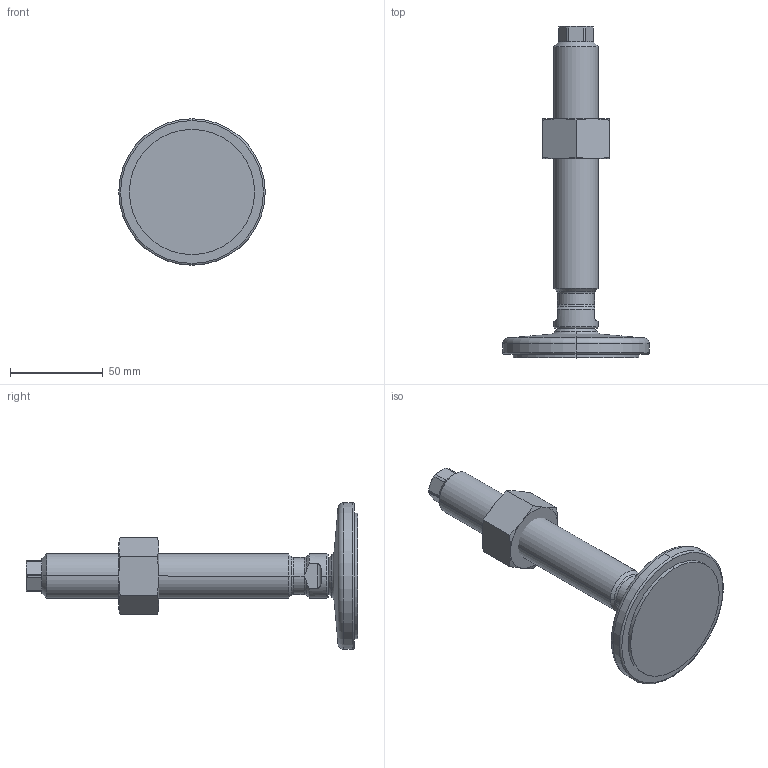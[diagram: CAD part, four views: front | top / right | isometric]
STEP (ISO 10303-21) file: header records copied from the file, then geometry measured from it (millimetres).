
FILE_DESCRIPTION (( 'STEP AP214' ), '1' );
FILE_NAME ('21-80-M24-150-D1-VK.step', '2020-10-02T17:36:36', ( '' ), ( '' ), 'SwSTEP 2.0', 'SolidWorks 2019', '' );
FILE_SCHEMA (( 'AUTOMOTIVE_DESIGN' ));
Length unit declared in the file: millimetre
Products named in the file (4): 21-80-M24-150-D1-VK; WB4032^WB21_V_M24; WB21_Spindel_V^WB21_V_M24-150; WB21_Fußteller 21^WB21_V_D1-080-R14-B9 (M24)
Assembly tree (3 placements, depth 2):
  21-80-M24-150-D1-VK
    WB21_Fußteller 21^WB21_V_D1-080-R14-B9 (M24)
    WB21_Spindel_V^WB21_V_M24-150
    WB4032^WB21_V_M24
Bounding box: 79 x 178.9 x 79 mm (x, y, z)
Volume: 141898.7 mm3; surface area: 30783.4 mm2
Topology: 3 solids, 3 shells, 98 faces, 219 edges, 129 vertices
Faces by surface type: cone 29, plane 28, cylinder 27, torus 10, sphere 4
Entity records: 3129 total; most frequent: CARTESIAN_POINT 736, DIRECTION 476, ORIENTED_EDGE 438, EDGE_CURVE 219, AXIS2_PLACEMENT_3D 205, VERTEX_POINT 129, EDGE_LOOP 102, CIRCLE 101
